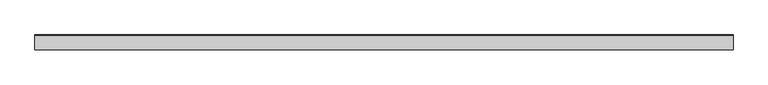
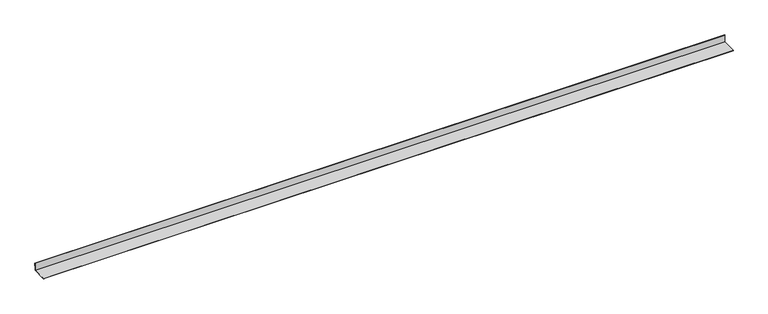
"""IFC4 building model written with IfcOpenShell, lengths in millimetres: proxy geometry, АК3_1 Обрамление внутреннего угла : АК3_1 Обрамление внутреннего угла."""

from ifc_helpers import new_model, si_unit, frame, origin, place, context, project, spatial, polyline, outline, extrude, source, transform, mapped, element, save


def generic_models_85b5dc57(model_context):
    return source(origin(), model_context, "Body", "SweptSolid", [
        extrude(outline(polyline([(-125.0, 5.0), (-5.0, 5.0), (-5.0, 65.0), (-2.0, 65.0), (-2.0, 45.0), (-3.0, 45.0), (-3.0, 64.0), (-4.0, 64.0), (-4.0, 4.0), (-124.0, 4.0), (-124.0, 3.0), (-105.0, 3.0), (-105.0, 2.0), (-125.0, 2.0), (-125.0, 5.0)])), frame((0.0, 0.0, 0.0), z_axis=(1.0, 0.0, 0.0), x_axis=(0.0, 1.0, 0.0)), (0.0, 0.0, 1.0), 5720.0),
    ])


if __name__ == "__main__":
    model = new_model("IFC4")
    model_context = context("Model", 3, world=origin())
    ifc_project = project(units=[si_unit("LENGTHUNIT", "METRE", prefix="MILLI")], contexts=[model_context])
    site = spatial("IfcSite", under=ifc_project)
    building = spatial("IfcBuilding", under=site)
    placement = place(None, origin())
    generic_models_shape = generic_models_85b5dc57(model_context)
    element("IfcBuildingElementProxy", 1, Name="АК3_1 Обрамление внутреннего угла : АК3_1 Обрамление внутреннего угла", ObjectType="АК3_1 Обрамление внутреннего угла : АК3_1 Обрамление внутреннего угла", at=placement, inside=building, context=model_context, shape_type="MappedRepresentation", body=[
        mapped(generic_models_shape, transform((0.0, 0.0, 0.0), x_axis=(1.0, 0.0, 0.0), y_axis=(0.0, 1.0, 0.0), z_axis=(0.0, 0.0, 1.0))),
    ])
    save(model, "model.ifc")
